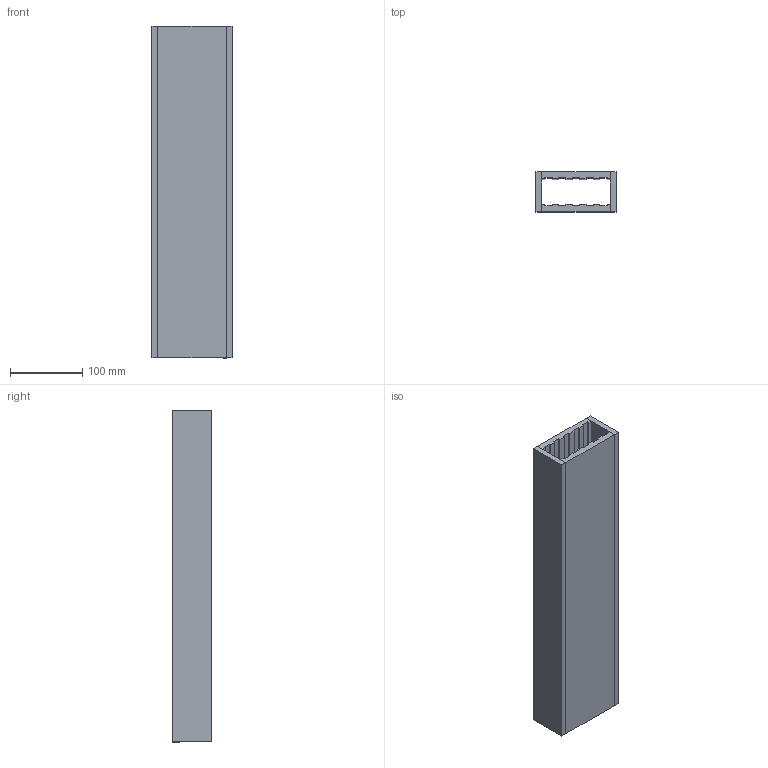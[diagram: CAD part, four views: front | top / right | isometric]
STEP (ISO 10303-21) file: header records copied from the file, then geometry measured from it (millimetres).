
FILE_DESCRIPTION (( 'STEP AP203' ), '1' );
FILE_NAME ('E1.L_18mm.STEP', '2021-08-02T20:56:26', ( '' ), ( '' ), 'SwSTEP 2.0', 'SolidWorks 2020', '' );
FILE_SCHEMA (( 'CONFIG_CONTROL_DESIGN' ));
Length unit declared in the file: millimetre
Products named in the file (3): E1.L_18mm; SSD Wind Tunnel Fixture_SIDES_E1.L; SSD Wind Tunnel Fixture_BASE_E1.L 18mm
Assembly tree (4 placements, depth 2):
  E1.L_18mm
    SSD Wind Tunnel Fixture_BASE_E1.L 18mm  x2
    SSD Wind Tunnel Fixture_SIDES_E1.L  x2
Bounding box: 111 x 55.25 x 460 mm (x, y, z)
Volume: 1187260 mm3; surface area: 333142 mm2
Topology: 4 solids, 4 shells, 64 faces, 168 edges, 112 vertices
Faces by surface type: plane 64
Entity records: 1337 total; most frequent: CARTESIAN_POINT 179, ORIENTED_EDGE 168, DIRECTION 162, LINE 84, EDGE_CURVE 84, VECTOR 84, VERTEX_POINT 56, AXIS2_PLACEMENT_3D 39
